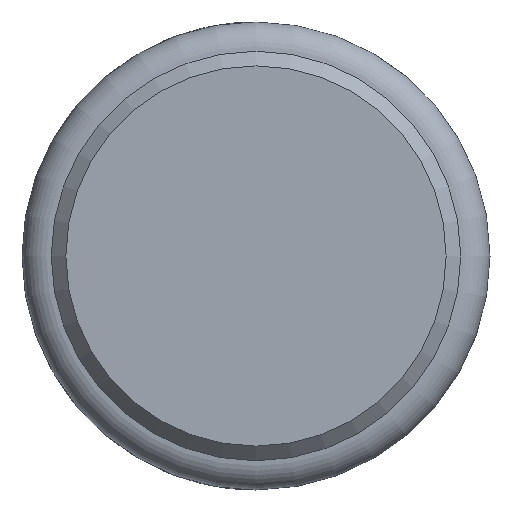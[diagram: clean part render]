
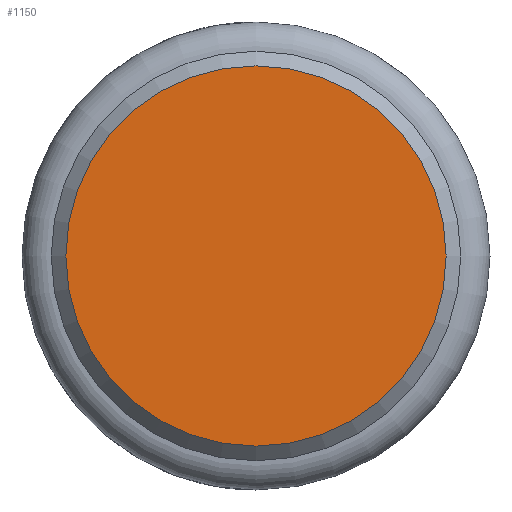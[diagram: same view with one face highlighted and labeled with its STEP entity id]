
A CAD part, left-side view. The second image highlights one B-rep face of the part: STEP entity #1150.
In plain terms, the highlighted planar face has unit normal (-1, 0, 0).
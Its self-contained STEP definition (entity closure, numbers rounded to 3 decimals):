
#71 = VERTEX_POINT ( 'NONE', #294 ) ;
#227 = AXIS2_PLACEMENT_3D ( 'NONE', #740, #546, #830 ) ;
#294 = CARTESIAN_POINT ( 'NONE',  ( 0., 0., -6.5 ) ) ;
#432 = DIRECTION ( 'NONE',  ( -1., 0., 0. ) ) ;
#483 = EDGE_CURVE ( 'NONE', #71, #71, #791, .T. ) ;
#525 = CARTESIAN_POINT ( 'NONE',  ( 0., 0., 0. ) ) ;
#535 = AXIS2_PLACEMENT_3D ( 'NONE', #525, #432, #979 ) ;
#546 = DIRECTION ( 'NONE',  ( 1., 0., 0. ) ) ;
#740 = CARTESIAN_POINT ( 'NONE',  ( 0., 0., -8. ) ) ;
#791 = CIRCLE ( 'NONE', #535, 6.5 ) ;
#794 = EDGE_LOOP ( 'NONE', ( #908 ) ) ;
#817 = FACE_OUTER_BOUND ( 'NONE', #794, .T. ) ;
#830 = DIRECTION ( 'NONE',  ( 0., 0., -1. ) ) ;
#908 = ORIENTED_EDGE ( 'NONE', *, *, #483, .T. ) ;
#916 = PLANE ( 'NONE',  #227 ) ;
#979 = DIRECTION ( 'NONE',  ( 0., 0., -1. ) ) ;
#1150 = ADVANCED_FACE ( 'NONE', ( #817 ), #916, .F. ) ;
